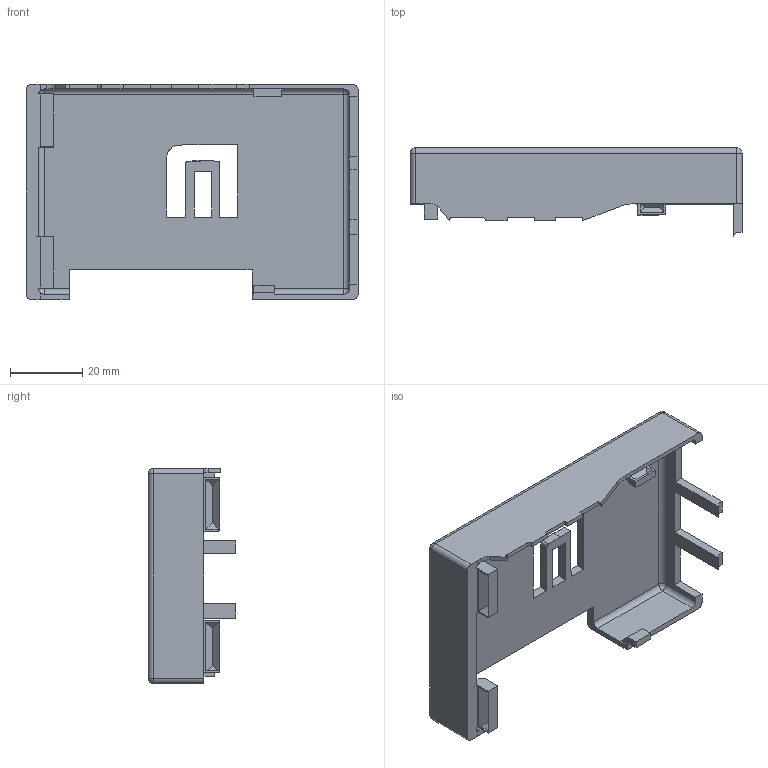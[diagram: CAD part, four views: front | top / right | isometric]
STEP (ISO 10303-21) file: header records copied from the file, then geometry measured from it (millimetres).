
FILE_DESCRIPTION(/* description */ (''),/* implementation_level */ '2;1');
FILE_NAME(/* name */ 'Top-Pins.step',/* time_stamp */ '2023-10-05T12:50:53-04:00',/* author */ (''),/* organization */ (''),/* preprocessor_version */ 'ST-DEVELOPER v20',/* originating_system */ 'Autodesk Translation Framework v12.14.0.127',/* authorisation */ '');
FILE_SCHEMA (('AUTOMOTIVE_DESIGN { 1 0 10303 214 3 1 1 }'));
Length unit declared in the file: millimetre
Products named in the file (2): PiWu; V2
Assembly tree (1 placements, depth 2):
  PiWu
    V2
Bounding box: 92.1 x 24.4 x 59.65 mm (x, y, z)
Volume: 18897.6 mm3; surface area: 17439.1 mm2
Topology: 1 solids, 1 shells, 142 faces, 386 edges, 246 vertices
Faces by surface type: plane 105, cylinder 24, sphere 8, bspline 5
Entity records: 4466 total; most frequent: CARTESIAN_POINT 849, ORIENTED_EDGE 772, DIRECTION 707, EDGE_CURVE 386, LINE 325, VECTOR 325, VERTEX_POINT 246, AXIS2_PLACEMENT_3D 191
